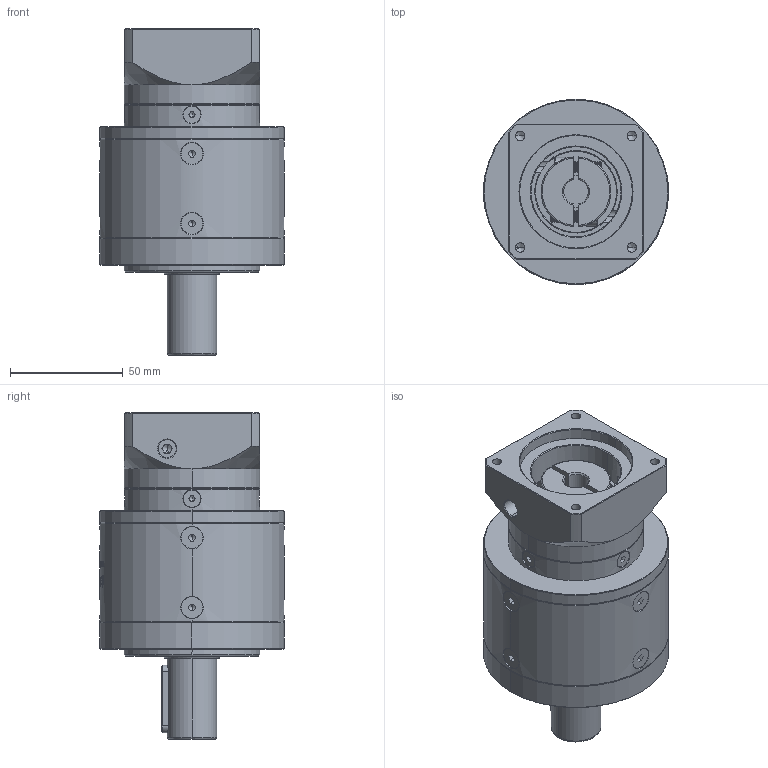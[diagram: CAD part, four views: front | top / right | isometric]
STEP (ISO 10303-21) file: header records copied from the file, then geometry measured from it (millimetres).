
FILE_DESCRIPTION (( 'STEP AP214' ), '1' );
FILE_NAME ('ZE80-D22-L2-11-50-70-M5.step', '2022-05-08T06:02:46', ( '' ), ( 'Microsoft' ), 'SwSTEP 2.0', 'SolidWorks 2016', '' );
FILE_SCHEMA (( 'AUTOMOTIVE_DESIGN' ));
Length unit declared in the file: millimetre
Products named in the file (1): ZE80-D22-L2-11-50-70-M5
Bounding box: 82 x 82 x 145 mm (x, y, z)
Volume: 446065.7 mm3; surface area: 64225.1 mm2
Topology: 18 solids, 18 shells, 1986 faces, 5189 edges, 3294 vertices
Faces by surface type: plane 935, cylinder 397, bspline 328, cone 312, torus 14
Entity records: 106787 total; most frequent: CARTESIAN_POINT 39577, ORIENTED_EDGE 10286, DIRECTION 8207, EDGE_CURVE 5143, VERTEX_POINT 3294, VECTOR 2809, LINE 2809, AXIS2_PLACEMENT_3D 2699
